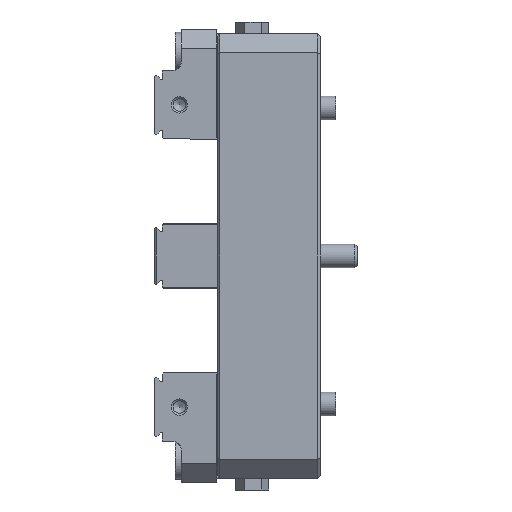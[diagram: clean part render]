
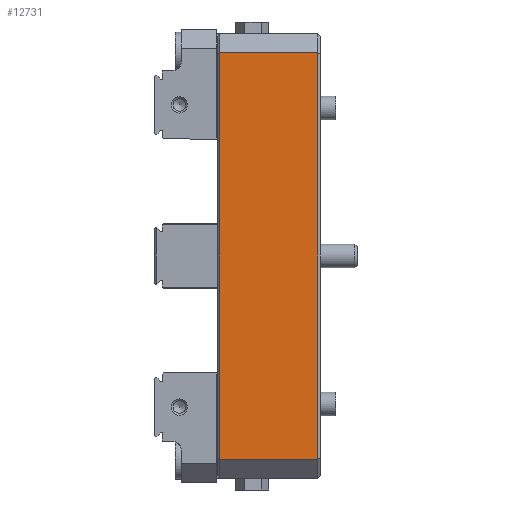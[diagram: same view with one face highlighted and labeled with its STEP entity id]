
A CAD part, left-side view. The second image highlights one B-rep face of the part: STEP entity #12731.
In plain terms, the highlighted planar face has unit normal (-1, 0, 0).
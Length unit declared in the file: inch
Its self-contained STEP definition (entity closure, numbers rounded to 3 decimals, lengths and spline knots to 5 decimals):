
#1036 = EDGE_CURVE ( 'NONE', #6262, #6307, #5504, .T. ) ;
#2508 = LINE ( 'NONE', #8612, #11657 ) ;
#2544 = FACE_OUTER_BOUND ( 'NONE', #17118, .T. ) ;
#2674 = VECTOR ( 'NONE', #9587, 39.37008 ) ;
#4063 = CARTESIAN_POINT ( 'NONE',  ( -1.47638, 0.04, 2.70276 ) ) ;
#4285 = ORIENTED_EDGE ( 'NONE', *, *, #8561, .T. ) ;
#5269 = ORIENTED_EDGE ( 'NONE', *, *, #1036, .T. ) ;
#5504 = LINE ( 'NONE', #11301, #2674 ) ;
#6213 = DIRECTION ( 'NONE',  ( 1., 0., 0. ) ) ;
#6262 = VERTEX_POINT ( 'NONE', #13841 ) ;
#6307 = VERTEX_POINT ( 'NONE', #4063 ) ;
#6737 = AXIS2_PLACEMENT_3D ( 'NONE', #16439, #6213, #7657 ) ;
#7657 = DIRECTION ( 'NONE',  ( 0., 1., 0. ) ) ;
#7732 = EDGE_CURVE ( 'NONE', #14815, #6262, #10039, .T. ) ;
#7831 = CARTESIAN_POINT ( 'NONE',  ( -1.47638, 1.34795, 2.70276 ) ) ;
#8561 = EDGE_CURVE ( 'NONE', #11979, #14815, #2508, .T. ) ;
#8612 = CARTESIAN_POINT ( 'NONE',  ( -1.47638, 1.34795, 2.95276 ) ) ;
#9337 = DIRECTION ( 'NONE',  ( 0., 1., 0. ) ) ;
#9358 = EDGE_CURVE ( 'NONE', #6307, #11979, #18100, .T. ) ;
#9456 = ORIENTED_EDGE ( 'NONE', *, *, #9358, .T. ) ;
#9587 = DIRECTION ( 'NONE',  ( 0., 0., 1. ) ) ;
#10039 = LINE ( 'NONE', #11572, #18387 ) ;
#10544 = ORIENTED_EDGE ( 'NONE', *, *, #7732, .T. ) ;
#11301 = CARTESIAN_POINT ( 'NONE',  ( -1.47638, 0.04, 2.70276 ) ) ;
#11532 = PLANE ( 'NONE',  #6737 ) ;
#11572 = CARTESIAN_POINT ( 'NONE',  ( -1.47638, 0., -2.70276 ) ) ;
#11657 = VECTOR ( 'NONE', #17567, 39.37008 ) ;
#11979 = VERTEX_POINT ( 'NONE', #7831 ) ;
#12731 = ADVANCED_FACE ( 'NONE', ( #2544 ), #11532, .F. ) ;
#13240 = DIRECTION ( 'NONE',  ( 0., -1., 0. ) ) ;
#13841 = CARTESIAN_POINT ( 'NONE',  ( -1.47638, 0.04, -2.70276 ) ) ;
#14815 = VERTEX_POINT ( 'NONE', #15531 ) ;
#15531 = CARTESIAN_POINT ( 'NONE',  ( -1.47638, 1.34795, -2.70276 ) ) ;
#16439 = CARTESIAN_POINT ( 'NONE',  ( -1.47638, 0., 2.95276 ) ) ;
#16638 = CARTESIAN_POINT ( 'NONE',  ( -1.47638, 1.38295, 2.70276 ) ) ;
#17118 = EDGE_LOOP ( 'NONE', ( #10544, #5269, #9456, #4285 ) ) ;
#17491 = VECTOR ( 'NONE', #9337, 39.37008 ) ;
#17567 = DIRECTION ( 'NONE',  ( 0., 0., -1. ) ) ;
#18100 = LINE ( 'NONE', #16638, #17491 ) ;
#18387 = VECTOR ( 'NONE', #13240, 39.37008 ) ;
